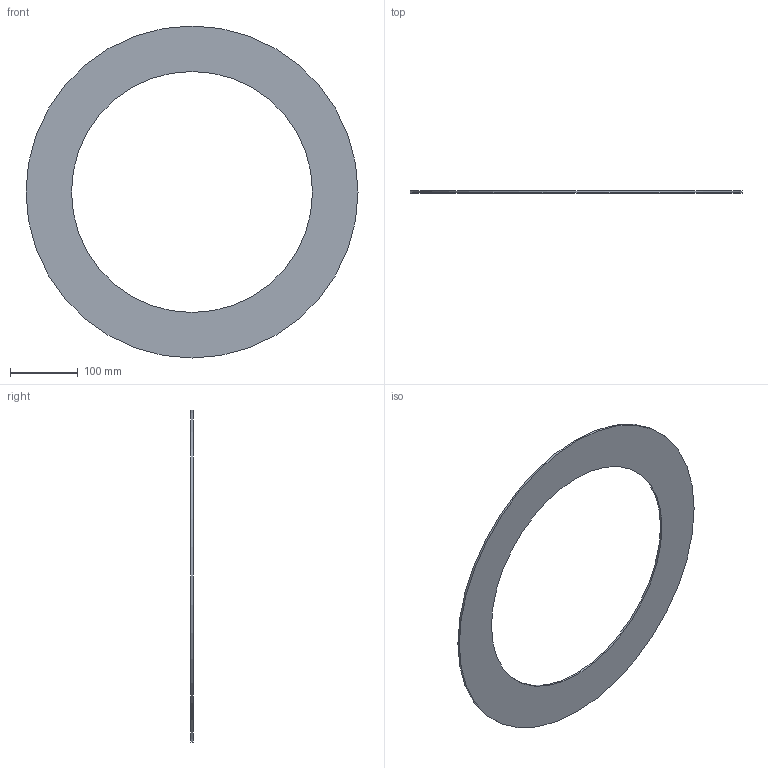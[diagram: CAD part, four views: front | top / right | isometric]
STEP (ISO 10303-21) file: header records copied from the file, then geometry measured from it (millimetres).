
FILE_DESCRIPTION(/* description */ ('Unknown'),/* implementation_level */ '2;1');
FILE_NAME(/* name */ 'GUA.400B',/* time_stamp */ '2021-04-01T14:11:38+02:00',/* author */ ('Unknown'),/* organization */ ('Unknown'),/* preprocessor_version */ 'ST-DEVELOPER v16.7',/* originating_system */ 'Solid Edge',/* authorisation */ 'Unknown');
FILE_SCHEMA (('AUTOMOTIVE_DESIGN {1 0 10303 214 3 1 1}'));
Length unit declared in the file: millimetre
Products named in the file (1): GUA.400B
Bounding box: 489 x 3 x 489 mm (x, y, z)
Volume: 266476.2 mm3; surface area: 185605.3 mm2
Topology: 1 solids, 1 shells, 4 faces, 6 edges, 4 vertices
Faces by surface type: cylinder 2, plane 2
Full cylindrical faces by diameter (mm): 355 x1, 489 x1
Entity records: 118 total; most frequent: DIRECTION 18, CARTESIAN_POINT 13, AXIS2_PLACEMENT_3D 9, ORIENTED_EDGE 8, EDGE_LOOP 8, FACE_BOUND 8, EDGE_CURVE 4, VERTEX_POINT 4
